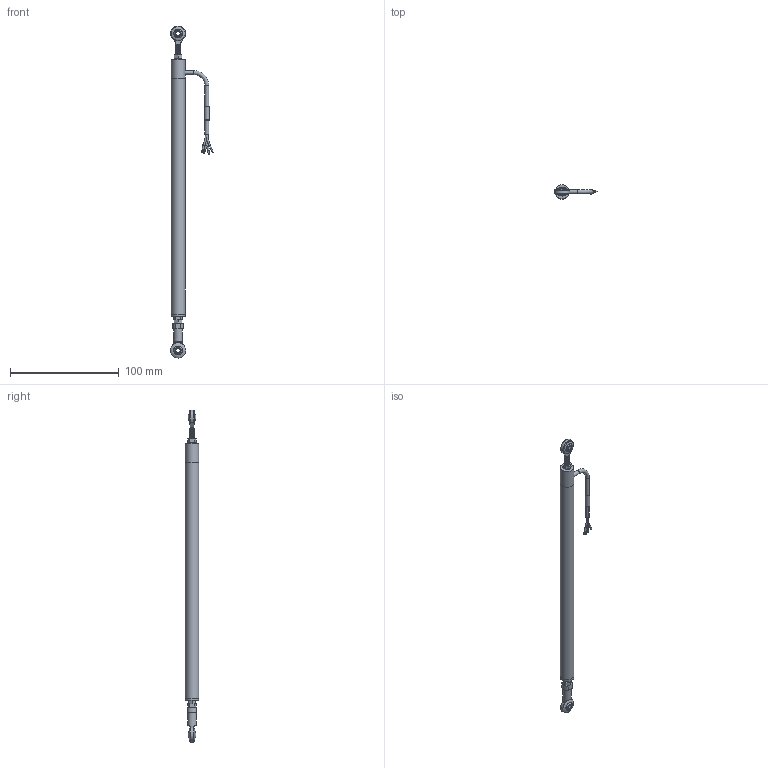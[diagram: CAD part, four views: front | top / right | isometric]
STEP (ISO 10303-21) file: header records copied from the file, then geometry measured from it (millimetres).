
FILE_DESCRIPTION(/* description */ (''),/* implementation_level */ '2;1');
FILE_NAME(/* name */ 'LPPS-12-175-R Assembly (wrapped).step',/* time_stamp */ '2023-10-10T14:08:07-04:00',/* author */ ('TSC_Grant'),/* organization */ (''),/* preprocessor_version */ 'ST-DEVELOPER v19.2',/* originating_system */ 'Autodesk Inventor 2024',/* authorisation */ '');
FILE_SCHEMA (('AUTOMOTIVE_DESIGN { 1 0 10303 214 3 1 1 }'));
Length unit declared in the file: inch
Products named in the file (4): LPPS-12-010-R Assembly (wrapped); LPPS-12-010-R Body (wrapped); LPPS-12-010-R Spoiler (wrapped); Wire
Assembly tree (3 placements, depth 2):
  LPPS-12-010-R Assembly (wrapped)
    LPPS-12-010-R Body (wrapped)
    LPPS-12-010-R Spoiler (wrapped)
    Wire
Bounding box: 39.48 x 12.7 x 305.7 mm (x, y, z)
Volume: 32958.2 mm3; surface area: 18749.8 mm2
Topology: 13 solids, 13 shells, 200 faces, 462 edges, 306 vertices
Faces by surface type: plane 94, cylinder 74, bspline 21, torus 7, sphere 4
Full cylindrical faces by diameter (mm): 1.016 x3, 1.27 x1, 1.524 x3, 1.651 x2, 3.632 x5, 3.937 x14, 4.14 x2, 4.191 x1, 4.445 x1, 6.604 x1, 8.001 x1, 12.7 x3
Entity records: 9550 total; most frequent: CARTESIAN_POINT 4681, ORIENTED_EDGE 924, DIRECTION 895, EDGE_CURVE 462, AXIS2_PLACEMENT_3D 345, VERTEX_POINT 306, EDGE_LOOP 228, LINE 205
